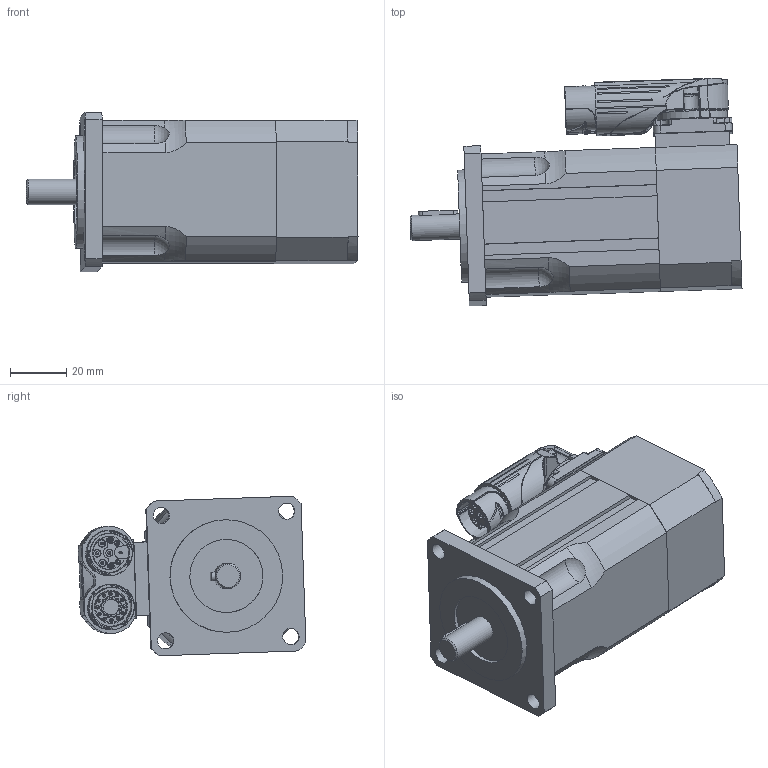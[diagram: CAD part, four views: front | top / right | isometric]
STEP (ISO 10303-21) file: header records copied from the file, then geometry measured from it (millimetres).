
FILE_DESCRIPTION(/* description */ ('Alibre Inc.'),/* implementation_level */ '2;1');
FILE_NAME(/* name */ 'export0',/* time_stamp */ '2011-07-29T10:04:47+02:00',/* author */ (''),/* organization */ (''),/* preprocessor_version */ 'ST-DEVELOPER v12',/* originating_system */ 'Alibre',/* authorisation */ '');
FILE_SCHEMA (('AUTOMOTIVE_DESIGN'));
Length unit declared in the file: millimetre
Products named in the file (5): ID_1; ID_2
Bounding box: 117.96 x 80.94 x 56.69 mm (x, y, z)
Volume: 260448 mm3; surface area: 41487.5 mm2
Topology: 4 solids, 5 shells, 1379 faces, 3386 edges, 2058 vertices
Faces by surface type: bspline 491, plane 371, cylinder 351, torus 86, cone 50, sphere 30
Full cylindrical faces by diameter (mm): 1 x21, 1.5 x1, 1.8 x2, 3.2 x4, 4 x1, 7.5 x1, 8 x1, 9 x1, 11.75 x1, 16.2 x1, 16.95 x1, 17.025 x1, 18.8 x1, 19.8 x1, 20 x1, 22.765 x1, 26 x1, 40 x1
Entity records: 70361 total; most frequent: CARTESIAN_POINT 41674, ORIENTED_EDGE 6334, DIRECTION 4840, EDGE_CURVE 3167, AXIS2_PLACEMENT_3D 2068, VERTEX_POINT 2007, EDGE_LOOP 1598, FACE_BOUND 1598
